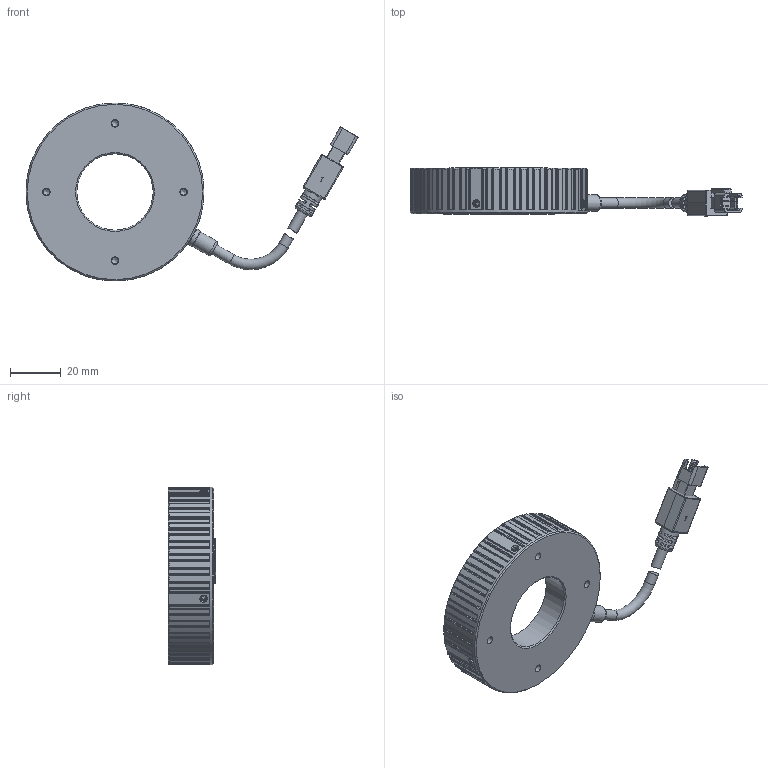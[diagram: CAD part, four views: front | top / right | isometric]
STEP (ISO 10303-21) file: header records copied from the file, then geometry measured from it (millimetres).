
FILE_DESCRIPTION (( 'STEP AP203' ), '1' );
FILE_NAME ('OPT-URI7000-UV-V1.0尨砩芞.STEP', '2024-12-11T00:36:33', ( '' ), ( '' ), 'SwSTEP 2.0', 'SolidWorks 2016', '' );
FILE_SCHEMA (( 'CONFIG_CONTROL_DESIGN' ));
Length unit declared in the file: millimetre
Products named in the file (1): OPT-URI7000-UV-V1.0尨砩芞
Bounding box: 130.6 x 18.85 x 70 mm (x, y, z)
Volume: 40413.3 mm3; surface area: 18447.8 mm2
Topology: 6 solids, 6 shells, 714 faces, 1955 edges, 1262 vertices
Faces by surface type: plane 346, cylinder 273, cone 66, bspline 21, torus 8
Full cylindrical faces by diameter (mm): 1.6 x4, 2.2 x4, 2.5 x4, 3 x4, 3.5 x1, 4.1 x3, 6.5 x1, 7 x1, 7.5 x1, 30 x1, 31.7 x1, 62 x1, 70 x1
Entity records: 23815 total; most frequent: CARTESIAN_POINT 6530, ORIENTED_EDGE 3744, DIRECTION 3338, EDGE_CURVE 1872, VERTEX_POINT 1240, AXIS2_PLACEMENT_3D 1197, VECTOR 944, LINE 944
